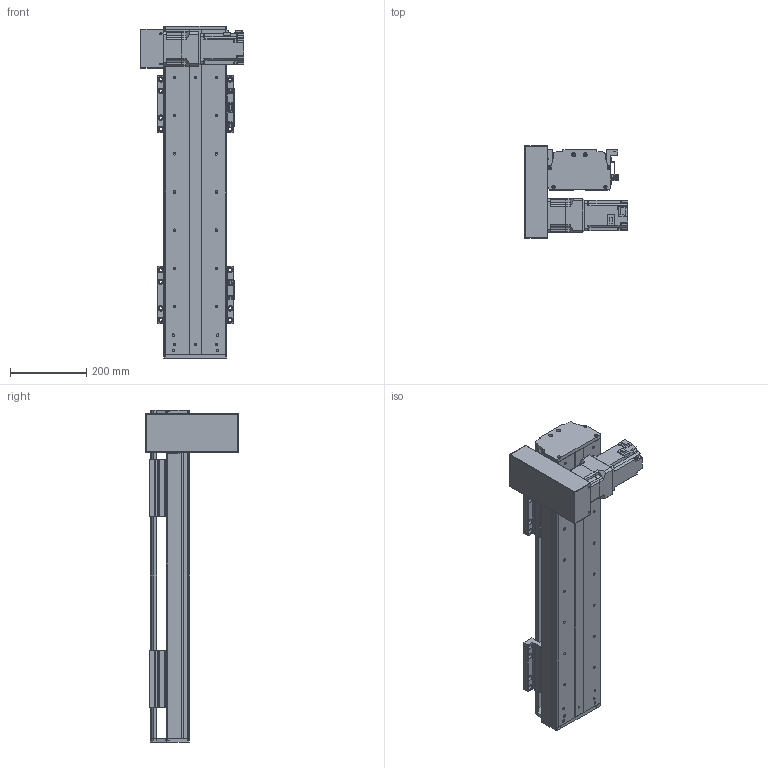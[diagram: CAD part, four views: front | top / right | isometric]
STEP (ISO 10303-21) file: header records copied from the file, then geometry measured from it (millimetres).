
FILE_DESCRIPTION(/* description */ (''),/* implementation_level */ '2;1');
FILE_NAME(/* name */ 'C:\Users\PC\Desktop\3D도면\STEP\DSB165-DL7G-W0500-R.stp',/* time_stamp */ '2018-06-25T15:41:53+09:00',/* author */ ('PC'),/* organization */ (''),/* preprocessor_version */ 'ST-DEVELOPER v16.5',/* originating_system */ 'Autodesk Inventor 2017',/* authorisation */ '');
FILE_SCHEMA (('AUTOMOTIVE_DESIGN { 1 0 10303 214 3 1 1 }'));
Length unit declared in the file: millimetre
Products named in the file (12): DSB165-L; DSR165-BASE_S; hg-kr73_; ab0901-p0401300102; 11-DBS165 BELT COVER; DBS165-COVER; DBS165-COVER_1; DBS165-UP COVER; DBS165-TABLE(MSA20S); DSR126-SENSOR DOG; SENSOR BRACKET(EE-SX674A); pm-y65_step
Assembly tree (16 placements, depth 2):
  DSB165-L
    DSR165-BASE_S
    hg-kr73_
    ab0901-p0401300102
    11-DBS165 BELT COVER
    DBS165-COVER
    DBS165-COVER_1
    DBS165-UP COVER
    DBS165-TABLE(MSA20S)  x2
    DSR126-SENSOR DOG
    pm-y65_step  x3
    SENSOR BRACKET(EE-SX674A)  x3
Bounding box: 270 x 242 x 870 mm (x, y, z)
Volume: 6582677.4 mm3; surface area: 1511495 mm2
Topology: 17 solids, 22 shells, 1655 faces, 4447 edges, 2936 vertices
Faces by surface type: plane 926, cylinder 613, cone 104, sphere 8, torus 4
Full cylindrical faces by diameter (mm): 2.459 x20, 3.5 x6, 4.134 x42, 4.5 x18, 5 x27, 5.5 x36, 5.9 x4, 6 x8, 6.6 x14, 6.647 x32, 6.8 x1, 7 x4, 7.6 x4, 8 x1, 8.4 x1, 8.5 x24, 8.7 x1, 9.5 x32, 11 x6, 14 x16, 19 x1, 22 x1, 24 x1, 25 x1, 28 x1, 67 x1, 70 x2, 80 x1
Entity records: 35229 total; most frequent: DIRECTION 6220, CARTESIAN_POINT 6043, ORIENTED_EDGE 5510, EDGE_CURVE 2760, AXIS2_PLACEMENT_3D 2280, VERTEX_POINT 1965, EDGE_LOOP 1707, LINE 1660
